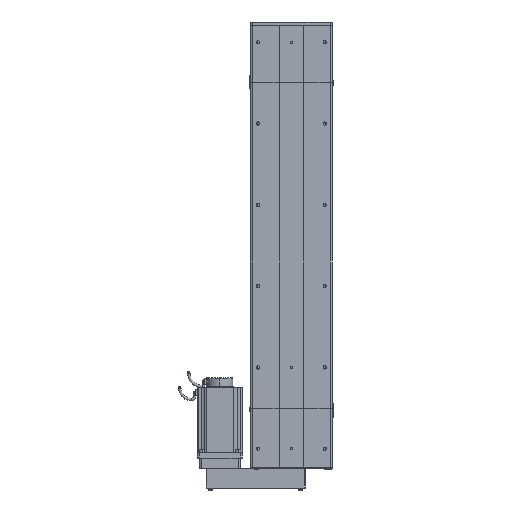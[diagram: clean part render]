
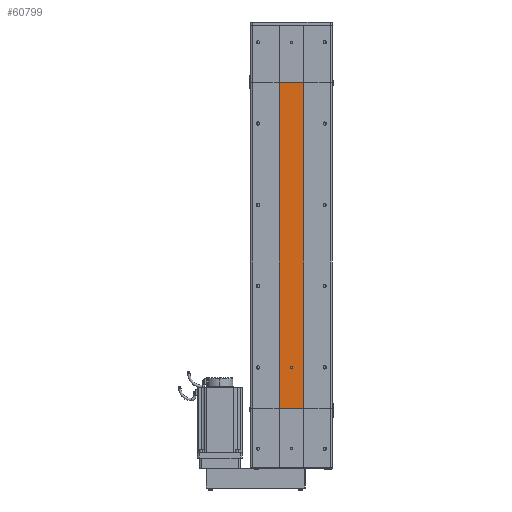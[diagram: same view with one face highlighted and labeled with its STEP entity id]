
A CAD part, front view. The second image highlights one B-rep face of the part: STEP entity #60799.
In plain terms, the highlighted planar face has unit normal (0, -1, 0).
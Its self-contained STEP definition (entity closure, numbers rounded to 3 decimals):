
#14403 = DIRECTION ( 'NONE',  ( -1., 0., 0. ) ) ;
#14412 = VECTOR ( 'NONE', #14403, 1000. ) ;
#14421 = CARTESIAN_POINT ( 'NONE',  ( -30., -32.5, 800. ) ) ;
#14422 = LINE ( 'NONE', #14421, #14412 ) ;
#14428 = CARTESIAN_POINT ( 'NONE',  ( -30., -32.5, 800. ) ) ;
#14437 = CARTESIAN_POINT ( 'NONE',  ( 30., -32.5, 800. ) ) ;
#14463 = DIRECTION ( 'NONE',  ( -1., 0., 0. ) ) ;
#14511 = CARTESIAN_POINT ( 'NONE',  ( -30., -32.5, 0. ) ) ;
#14554 = LINE ( 'NONE', #14637, #14636 ) ;
#14555 = CARTESIAN_POINT ( 'NONE',  ( 30., -32.5, 0. ) ) ;
#14636 = VECTOR ( 'NONE', #14463, 1000. ) ;
#14637 = CARTESIAN_POINT ( 'NONE',  ( -30., -32.5, 0. ) ) ;
#14662 = LINE ( 'NONE', #14841, #14840 ) ;
#14663 = PLANE ( 'NONE',  #14667 ) ;
#14666 = AXIS2_PLACEMENT_3D ( 'NONE', #14749, #14748, #14747 ) ;
#14667 = AXIS2_PLACEMENT_3D ( 'NONE', #14673, #14672, #14671 ) ;
#14671 = DIRECTION ( 'NONE',  ( 0., 0., 1. ) ) ;
#14672 = DIRECTION ( 'NONE',  ( 0., 1., 0. ) ) ;
#14673 = CARTESIAN_POINT ( 'NONE',  ( -30., -32.5, 0. ) ) ;
#14674 = CIRCLE ( 'NONE', #14666, 3. ) ;
#14710 = FACE_OUTER_BOUND ( 'NONE', #61039, .T. ) ;
#14747 = DIRECTION ( 'NONE',  ( 0., 0., -1. ) ) ;
#14748 = DIRECTION ( 'NONE',  ( 0., -1., 0. ) ) ;
#14749 = CARTESIAN_POINT ( 'NONE',  ( 0., -32.5, 100. ) ) ;
#14815 = FACE_BOUND ( 'NONE', #60607, .T. ) ;
#14839 = DIRECTION ( 'NONE',  ( 0., 0., 1. ) ) ;
#14840 = VECTOR ( 'NONE', #14839, 1000. ) ;
#14841 = CARTESIAN_POINT ( 'NONE',  ( -30., -32.5, 0. ) ) ;
#15097 = DIRECTION ( 'NONE',  ( 0., 0., 1. ) ) ;
#15098 = VECTOR ( 'NONE', #15097, 1000. ) ;
#15125 = CARTESIAN_POINT ( 'NONE',  ( 30., -32.5, 0. ) ) ;
#15178 = LINE ( 'NONE', #15125, #15098 ) ;
#52555 = DIRECTION ( 'NONE',  ( 0., 0., -1. ) ) ;
#52557 = DIRECTION ( 'NONE',  ( 0., -1., 0. ) ) ;
#52567 = CARTESIAN_POINT ( 'NONE',  ( 0., -32.5, 103. ) ) ;
#52656 = CARTESIAN_POINT ( 'NONE',  ( 0., -32.5, 97. ) ) ;
#52729 = CIRCLE ( 'NONE', #52746, 3. ) ;
#52733 = CARTESIAN_POINT ( 'NONE',  ( 0., -32.5, 100. ) ) ;
#52746 = AXIS2_PLACEMENT_3D ( 'NONE', #52733, #52557, #52555 ) ;
#59293 = VERTEX_POINT ( 'NONE', #52656 ) ;
#59313 = VERTEX_POINT ( 'NONE', #52567 ) ;
#59393 = EDGE_CURVE ( 'NONE', #59313, #59293, #52729, .T. ) ;
#60493 = VERTEX_POINT ( 'NONE', #14437 ) ;
#60558 = VERTEX_POINT ( 'NONE', #14428 ) ;
#60562 = EDGE_CURVE ( 'NONE', #60493, #60558, #14422, .T. ) ;
#60607 = EDGE_LOOP ( 'NONE', ( #60816, #61013 ) ) ;
#60633 = VERTEX_POINT ( 'NONE', #14555 ) ;
#60639 = EDGE_CURVE ( 'NONE', #60633, #60739, #14554, .T. ) ;
#60739 = VERTEX_POINT ( 'NONE', #14511 ) ;
#60799 = ADVANCED_FACE ( 'NONE', ( #14815, #14710 ), #14663, .F. ) ;
#60801 = EDGE_CURVE ( 'NONE', #59293, #59313, #14674, .T. ) ;
#60809 = EDGE_CURVE ( 'NONE', #60739, #60558, #14662, .T. ) ;
#60816 = ORIENTED_EDGE ( 'NONE', *, *, #60801, .F. ) ;
#61012 = ORIENTED_EDGE ( 'NONE', *, *, #61047, .T. ) ;
#61013 = ORIENTED_EDGE ( 'NONE', *, *, #59393, .F. ) ;
#61039 = EDGE_LOOP ( 'NONE', ( #61078, #61106, #61108, #61012 ) ) ;
#61047 = EDGE_CURVE ( 'NONE', #60633, #60493, #15178, .T. ) ;
#61078 = ORIENTED_EDGE ( 'NONE', *, *, #60562, .T. ) ;
#61106 = ORIENTED_EDGE ( 'NONE', *, *, #60809, .F. ) ;
#61108 = ORIENTED_EDGE ( 'NONE', *, *, #60639, .F. ) ;
